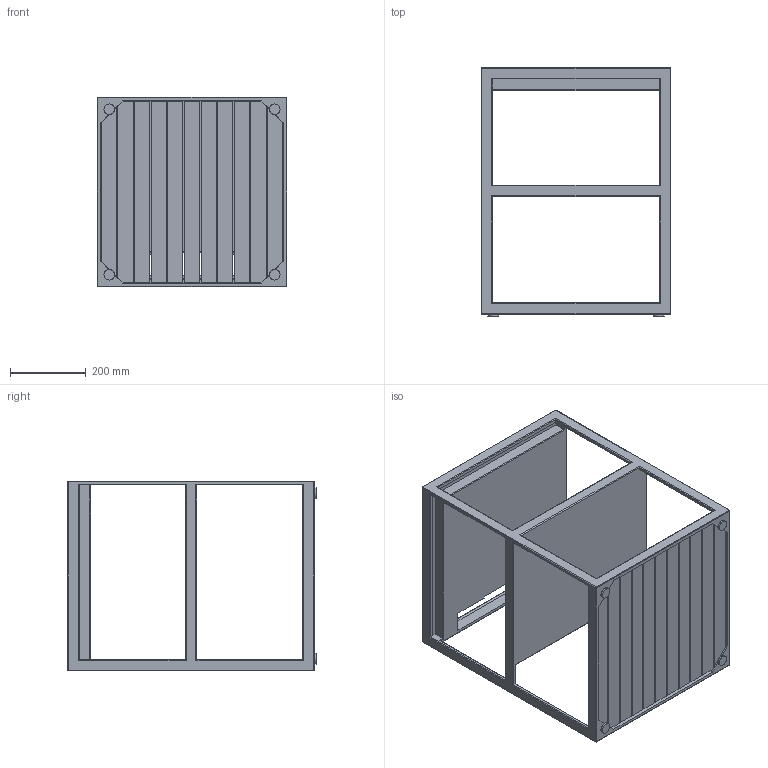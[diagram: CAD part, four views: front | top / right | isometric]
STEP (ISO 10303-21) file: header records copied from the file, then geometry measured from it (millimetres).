
FILE_DESCRIPTION(/* description */ (''),/* implementation_level */ '2;1');
FILE_NAME(/* name */ 'C:\INVENTOR\Workspace\# ARKITEKT FILER\Open Kitchen\OK 50\Open Kitchen 50 w Teak.stp',/* time_stamp */ '2020-05-06T14:56:21+02:00',/* author */ ('Röshults'),/* organization */ (''),/* preprocessor_version */ 'ST-DEVELOPER v17.2',/* originating_system */ 'Autodesk Inventor 2019',/* authorisation */ '');
FILE_SCHEMA (('AUTOMOTIVE_DESIGN { 1 0 10303 214 3 1 1 }'));
Length unit declared in the file: millimetre
Products named in the file (3): Ope  Kitchen 50 w Teak; Open Frame 50; Teak 50
Assembly tree (2 placements, depth 2):
  Ope  Kitchen 50 w Teak
    Open Frame 50
    Teak 50
Bounding box: 500 x 655 x 500 mm (x, y, z)
Volume: 18473595.8 mm3; surface area: 2148120 mm2
Topology: 12 solids, 12 shells, 222 faces, 522 edges, 320 vertices
Faces by surface type: plane 140, cylinder 74, sphere 8
Full cylindrical faces by diameter (mm): 28 x4
Entity records: 6370 total; most frequent: DIRECTION 1082, CARTESIAN_POINT 1070, ORIENTED_EDGE 1044, EDGE_CURVE 522, LINE 418, VECTOR 418, AXIS2_PLACEMENT_3D 332, VERTEX_POINT 320
